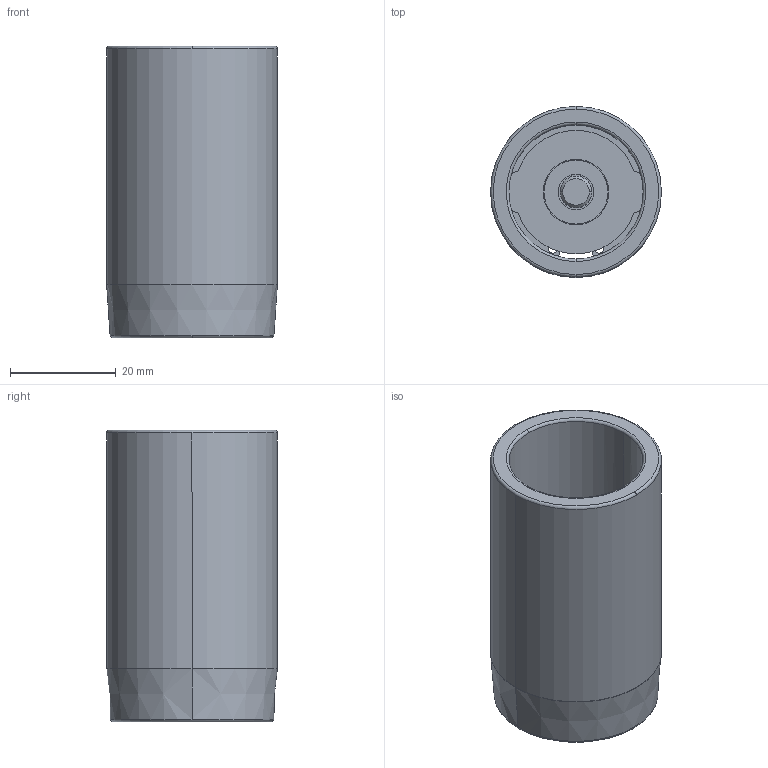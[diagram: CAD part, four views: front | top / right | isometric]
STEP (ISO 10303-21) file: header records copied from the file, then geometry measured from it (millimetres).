
FILE_DESCRIPTION((''),'2;1');
FILE_NAME('C12_025_055.stp','2009-01-28T08:31:28',(''),(''),'Mechanical Desktop 2009','Mechanical Desktop 2009',', , ');
FILE_SCHEMA(('CONFIG_CONTROL_DESIGN'));
Length unit declared in the file: millimetre
Products named in the file (2): Product; blmdl1
Assembly tree (1 placements, depth 2):
  Product
    blmdl1
Bounding box: 32.25 x 32.25 x 55 mm (x, y, z)
Volume: 18628.1 mm3; surface area: 13523.3 mm2
Topology: 5 solids, 5 shells, 79 faces, 200 edges, 134 vertices
Faces by surface type: cylinder 34, plane 29, torus 10, cone 6
Entity records: 2585 total; most frequent: DIRECTION 480, CARTESIAN_POINT 435, ORIENTED_EDGE 400, AXIS2_PLACEMENT_3D 203, EDGE_CURVE 200, VERTEX_POINT 134, CIRCLE 122, EDGE_LOOP 92
